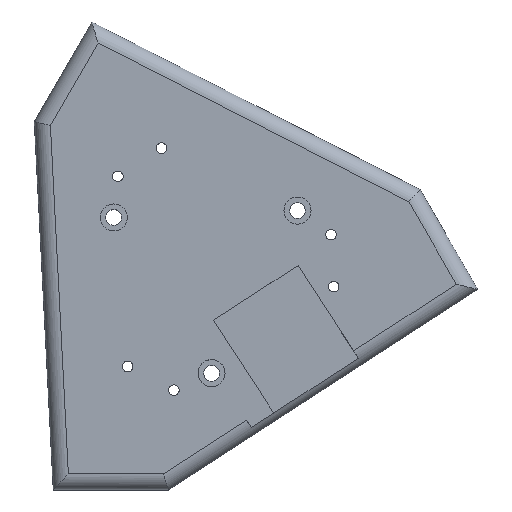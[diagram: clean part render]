
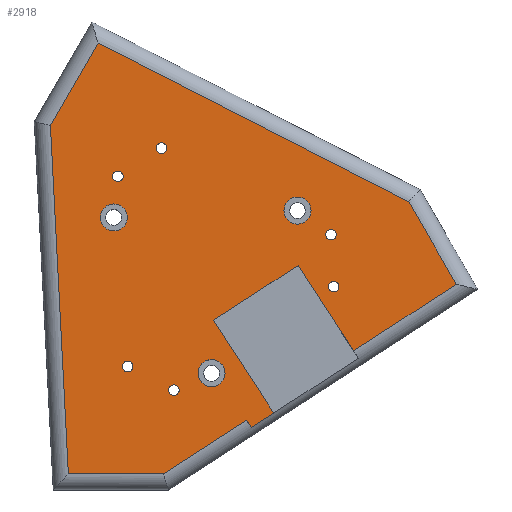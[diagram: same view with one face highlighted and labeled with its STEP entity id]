
A CAD part, top view. The second image highlights one B-rep face of the part: STEP entity #2918.
In plain terms, the highlighted planar face has unit normal (0, 0, 1).
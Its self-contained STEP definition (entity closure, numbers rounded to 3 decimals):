
#24 = VERTEX_POINT('',#25);
#25 = CARTESIAN_POINT('',(-26.25,-38.997,14.));
#41 = VERTEX_POINT('',#42);
#42 = CARTESIAN_POINT('',(-29.629,26.675,14.));
#49 = EDGE_CURVE('',#24,#41,#50,.T.);
#50 = LINE('',#51,#52);
#51 = CARTESIAN_POINT('',(-26.104,-41.843,14.));
#52 = VECTOR('',#53,1.);
#53 = DIRECTION('',(-0.051,0.999,0.));
#64 = EDGE_CURVE('',#24,#65,#67,.T.);
#65 = VERTEX_POINT('',#66);
#66 = CARTESIAN_POINT('',(-8.287,-38.997,14.));
#67 = LINE('',#68,#69);
#68 = CARTESIAN_POINT('',(-29.1,-38.997,14.));
#69 = VECTOR('',#70,1.);
#70 = DIRECTION('',(1.,0.,0.));
#127 = VERTEX_POINT('',#128);
#128 = CARTESIAN_POINT('',(-20.647,42.232,14.));
#144 = EDGE_CURVE('',#127,#41,#145,.T.);
#145 = LINE('',#146,#147);
#146 = CARTESIAN_POINT('',(-19.222,44.7,14.));
#147 = VECTOR('',#148,1.);
#148 = DIRECTION('',(-0.5,-0.866,0.));
#199 = VERTEX_POINT('',#200);
#200 = CARTESIAN_POINT('',(46.898,-3.235,14.));
#209 = EDGE_CURVE('',#199,#210,#212,.T.);
#210 = VERTEX_POINT('',#211);
#211 = CARTESIAN_POINT('',(27.515,-15.796,14.));
#212 = LINE('',#213,#214);
#213 = CARTESIAN_POINT('',(49.289,-1.685,14.));
#214 = VECTOR('',#215,1.);
#215 = DIRECTION('',(-0.839,-0.544,0.));
#243 = VERTEX_POINT('',#244);
#244 = CARTESIAN_POINT('',(7.374,-28.848,14.));
#251 = EDGE_CURVE('',#243,#65,#252,.T.);
#252 = LINE('',#253,#254);
#253 = CARTESIAN_POINT('',(49.289,-1.685,14.));
#254 = VECTOR('',#255,1.);
#255 = DIRECTION('',(-0.839,-0.544,0.));
#840 = VERTEX_POINT('',#841);
#841 = CARTESIAN_POINT('',(8.276,-30.239,14.));
#847 = EDGE_CURVE('',#840,#243,#848,.T.);
#848 = LINE('',#849,#850);
#849 = CARTESIAN_POINT('',(0.152,-17.703,14.));
#850 = VECTOR('',#851,1.);
#851 = DIRECTION('',(-0.544,0.839,0.));
#863 = VERTEX_POINT('',#864);
#864 = CARTESIAN_POINT('',(12.472,-27.52,14.));
#870 = EDGE_CURVE('',#863,#840,#871,.T.);
#871 = LINE('',#872,#873);
#872 = CARTESIAN_POINT('',(14.36,-26.297,14.));
#873 = VECTOR('',#874,1.);
#874 = DIRECTION('',(-0.839,-0.544,0.));
#894 = VERTEX_POINT('',#895);
#895 = CARTESIAN_POINT('',(1.127,-10.014,14.));
#901 = EDGE_CURVE('',#894,#863,#902,.T.);
#902 = LINE('',#903,#904);
#903 = CARTESIAN_POINT('',(-1.325,-6.23,14.));
#904 = VECTOR('',#905,1.);
#905 = DIRECTION('',(0.544,-0.839,0.));
#919 = VERTEX_POINT('',#920);
#920 = CARTESIAN_POINT('',(17.072,0.319,14.));
#926 = EDGE_CURVE('',#894,#919,#927,.T.);
#927 = LINE('',#928,#929);
#928 = CARTESIAN_POINT('',(-3.069,-12.733,14.));
#929 = VECTOR('',#930,1.);
#930 = DIRECTION('',(0.839,0.544,0.));
#954 = EDGE_CURVE('',#919,#210,#955,.T.);
#955 = LINE('',#956,#957);
#956 = CARTESIAN_POINT('',(15.131,3.313,14.));
#957 = VECTOR('',#958,1.);
#958 = DIRECTION('',(0.544,-0.839,0.));
#979 = VERTEX_POINT('',#980);
#980 = CARTESIAN_POINT('',(37.916,12.322,14.));
#987 = EDGE_CURVE('',#199,#979,#988,.T.);
#988 = LINE('',#989,#990);
#989 = CARTESIAN_POINT('',(48.322,-5.703,14.));
#990 = VECTOR('',#991,1.);
#991 = DIRECTION('',(-0.5,0.866,0.));
#1009 = EDGE_CURVE('',#127,#979,#1010,.T.);
#1010 = LINE('',#1011,#1012);
#1011 = CARTESIAN_POINT('',(-23.185,43.528,14.));
#1012 = VECTOR('',#1013,1.);
#1013 = DIRECTION('',(0.891,-0.455,0.));
#1023 = EDGE_CURVE('',#1024,#1024,#1026,.T.);
#1024 = VERTEX_POINT('',#1025);
#1025 = CARTESIAN_POINT('',(-15.573,-17.874,14.));
#1026 = CIRCLE('',#1027,1.);
#1027 = AXIS2_PLACEMENT_3D('',#1028,#1029,#1030);
#1028 = CARTESIAN_POINT('',(-15.073,-18.74,14.));
#1029 = DIRECTION('',(0.,0.,1.));
#1030 = DIRECTION('',(-0.5,0.866,0.));
#1048 = EDGE_CURVE('',#1049,#1049,#1051,.T.);
#1049 = VERTEX_POINT('',#1050);
#1050 = CARTESIAN_POINT('',(-6.846,-22.332,14.));
#1051 = CIRCLE('',#1052,1.);
#1052 = AXIS2_PLACEMENT_3D('',#1053,#1054,#1055);
#1053 = CARTESIAN_POINT('',(-6.346,-23.198,14.));
#1054 = DIRECTION('',(0.,0.,1.));
#1055 = DIRECTION('',(-0.5,0.866,0.));
#2387 = EDGE_CURVE('',#2388,#2388,#2390,.T.);
#2388 = VERTEX_POINT('',#2389);
#2389 = CARTESIAN_POINT('',(23.266,-4.55,14.));
#2390 = CIRCLE('',#2391,1.);
#2391 = AXIS2_PLACEMENT_3D('',#2392,#2393,#2394);
#2392 = CARTESIAN_POINT('',(23.766,-3.684,14.));
#2393 = DIRECTION('',(0.,0.,1.));
#2394 = DIRECTION('',(-0.5,-0.866,0.));
#2437 = EDGE_CURVE('',#2438,#2438,#2440,.T.);
#2438 = VERTEX_POINT('',#2439);
#2439 = CARTESIAN_POINT('',(-15.917,17.094,14.));
#2440 = CIRCLE('',#2441,1.);
#2441 = AXIS2_PLACEMENT_3D('',#2442,#2443,#2444);
#2442 = CARTESIAN_POINT('',(-16.917,17.094,14.));
#2443 = DIRECTION('',(0.,0.,1.));
#2444 = DIRECTION('',(1.,0.,-0.));
#2462 = EDGE_CURVE('',#2463,#2463,#2465,.T.);
#2463 = VERTEX_POINT('',#2464);
#2464 = CARTESIAN_POINT('',(-7.693,22.424,14.));
#2465 = CIRCLE('',#2466,1.);
#2466 = AXIS2_PLACEMENT_3D('',#2467,#2468,#2469);
#2467 = CARTESIAN_POINT('',(-8.693,22.424,14.));
#2468 = DIRECTION('',(0.,0.,1.));
#2469 = DIRECTION('',(1.,0.,-0.));
#2512 = EDGE_CURVE('',#2513,#2513,#2515,.T.);
#2513 = VERTEX_POINT('',#2514);
#2514 = CARTESIAN_POINT('',(22.763,5.237,14.));
#2515 = CIRCLE('',#2516,1.);
#2516 = AXIS2_PLACEMENT_3D('',#2517,#2518,#2519);
#2517 = CARTESIAN_POINT('',(23.263,6.103,14.));
#2518 = DIRECTION('',(0.,0.,1.));
#2519 = DIRECTION('',(-0.5,-0.866,0.));
#2711 = VERTEX_POINT('',#2712);
#2712 = CARTESIAN_POINT('',(3.295,-19.996,14.));
#2717 = EDGE_CURVE('',#2711,#2718,#2720,.T.);
#2718 = VERTEX_POINT('',#2719);
#2719 = CARTESIAN_POINT('',(2.699,-21.634,14.));
#2720 = CIRCLE('',#2721,2.55);
#2721 = AXIS2_PLACEMENT_3D('',#2722,#2723,#2724);
#2722 = CARTESIAN_POINT('',(0.745,-19.996,14.));
#2723 = DIRECTION('',(0.,0.,-1.));
#2724 = DIRECTION('',(1.,0.,0.));
#2726 = EDGE_CURVE('',#2727,#2718,#2729,.T.);
#2727 = VERTEX_POINT('',#2728);
#2728 = CARTESIAN_POINT('',(0.048,-17.543,14.));
#2729 = CIRCLE('',#2730,2.55);
#2730 = AXIS2_PLACEMENT_3D('',#2731,#2732,#2733);
#2731 = CARTESIAN_POINT('',(0.745,-19.996,14.));
#2732 = DIRECTION('',(0.,0.,1.));
#2733 = DIRECTION('',(1.,0.,0.));
#2735 = EDGE_CURVE('',#2727,#2711,#2736,.T.);
#2736 = CIRCLE('',#2737,2.55);
#2737 = AXIS2_PLACEMENT_3D('',#2738,#2739,#2740);
#2738 = CARTESIAN_POINT('',(0.745,-19.996,14.));
#2739 = DIRECTION('',(0.,0.,-1.));
#2740 = DIRECTION('',(1.,0.,0.));
#2798 = VERTEX_POINT('',#2799);
#2799 = CARTESIAN_POINT('',(19.495,10.643,14.));
#2815 = EDGE_CURVE('',#2798,#2798,#2816,.T.);
#2816 = CIRCLE('',#2817,2.55);
#2817 = AXIS2_PLACEMENT_3D('',#2818,#2819,#2820);
#2818 = CARTESIAN_POINT('',(16.945,10.643,14.));
#2819 = DIRECTION('',(0.,0.,1.));
#2820 = DIRECTION('',(1.,0.,0.));
#2877 = VERTEX_POINT('',#2878);
#2878 = CARTESIAN_POINT('',(-15.139,9.353,14.));
#2894 = EDGE_CURVE('',#2877,#2877,#2895,.T.);
#2895 = CIRCLE('',#2896,2.55);
#2896 = AXIS2_PLACEMENT_3D('',#2897,#2898,#2899);
#2897 = CARTESIAN_POINT('',(-17.689,9.353,14.));
#2898 = DIRECTION('',(0.,0.,1.));
#2899 = DIRECTION('',(1.,0.,0.));
#2918 = ADVANCED_FACE('',(#2919,#2933,#2938,#2941,#2944,#2947,#2950,
    #2953,#2956,#2959),#2962,.T.);
#2919 = FACE_BOUND('',#2920,.T.);
#2920 = EDGE_LOOP('',(#2921,#2922,#2923,#2924,#2925,#2926,#2927,#2928,
    #2929,#2930,#2931,#2932));
#2921 = ORIENTED_EDGE('',*,*,#49,.F.);
#2922 = ORIENTED_EDGE('',*,*,#64,.T.);
#2923 = ORIENTED_EDGE('',*,*,#251,.F.);
#2924 = ORIENTED_EDGE('',*,*,#847,.F.);
#2925 = ORIENTED_EDGE('',*,*,#870,.F.);
#2926 = ORIENTED_EDGE('',*,*,#901,.F.);
#2927 = ORIENTED_EDGE('',*,*,#926,.T.);
#2928 = ORIENTED_EDGE('',*,*,#954,.T.);
#2929 = ORIENTED_EDGE('',*,*,#209,.F.);
#2930 = ORIENTED_EDGE('',*,*,#987,.T.);
#2931 = ORIENTED_EDGE('',*,*,#1009,.F.);
#2932 = ORIENTED_EDGE('',*,*,#144,.T.);
#2933 = FACE_BOUND('',#2934,.T.);
#2934 = EDGE_LOOP('',(#2935,#2936,#2937));
#2935 = ORIENTED_EDGE('',*,*,#2726,.F.);
#2936 = ORIENTED_EDGE('',*,*,#2735,.T.);
#2937 = ORIENTED_EDGE('',*,*,#2717,.T.);
#2938 = FACE_BOUND('',#2939,.T.);
#2939 = EDGE_LOOP('',(#2940));
#2940 = ORIENTED_EDGE('',*,*,#2815,.F.);
#2941 = FACE_BOUND('',#2942,.T.);
#2942 = EDGE_LOOP('',(#2943));
#2943 = ORIENTED_EDGE('',*,*,#2894,.F.);
#2944 = FACE_BOUND('',#2945,.T.);
#2945 = EDGE_LOOP('',(#2946));
#2946 = ORIENTED_EDGE('',*,*,#1023,.F.);
#2947 = FACE_BOUND('',#2948,.T.);
#2948 = EDGE_LOOP('',(#2949));
#2949 = ORIENTED_EDGE('',*,*,#1048,.F.);
#2950 = FACE_BOUND('',#2951,.T.);
#2951 = EDGE_LOOP('',(#2952));
#2952 = ORIENTED_EDGE('',*,*,#2512,.F.);
#2953 = FACE_BOUND('',#2954,.T.);
#2954 = EDGE_LOOP('',(#2955));
#2955 = ORIENTED_EDGE('',*,*,#2462,.F.);
#2956 = FACE_BOUND('',#2957,.T.);
#2957 = EDGE_LOOP('',(#2958));
#2958 = ORIENTED_EDGE('',*,*,#2437,.F.);
#2959 = FACE_BOUND('',#2960,.T.);
#2960 = EDGE_LOOP('',(#2961));
#2961 = ORIENTED_EDGE('',*,*,#2387,.F.);
#2962 = PLANE('',#2963);
#2963 = AXIS2_PLACEMENT_3D('',#2964,#2965,#2966);
#2964 = CARTESIAN_POINT('',(1.328,-0.99,14.));
#2965 = DIRECTION('',(0.,0.,1.));
#2966 = DIRECTION('',(1.,0.,-0.));
